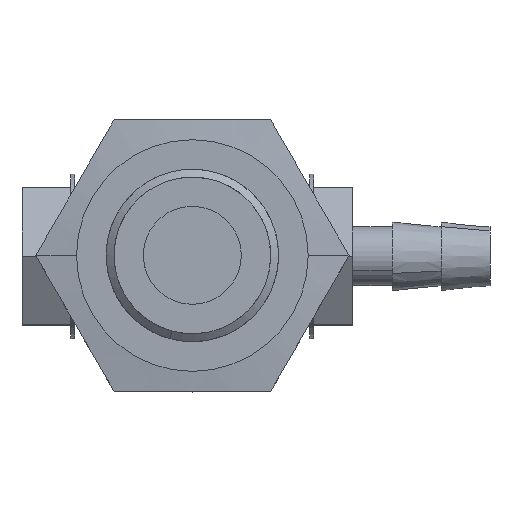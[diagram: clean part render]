
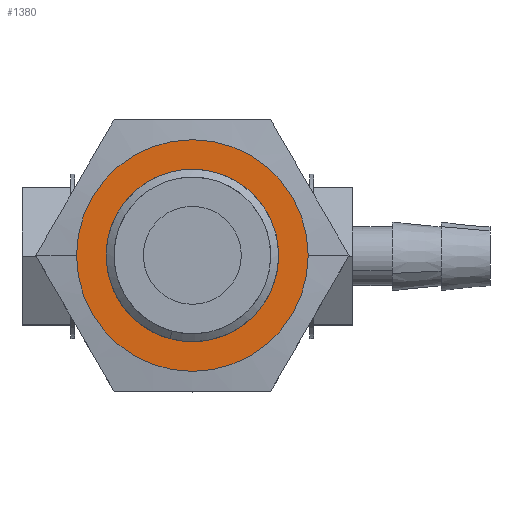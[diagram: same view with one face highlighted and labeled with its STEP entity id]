
A CAD part, top view. The second image highlights one B-rep face of the part: STEP entity #1380.
In plain terms, the highlighted planar face has unit normal (0, 0, 1).
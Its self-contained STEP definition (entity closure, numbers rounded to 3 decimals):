
#51 = FACE_BOUND ( 'NONE', #9597, .T. ) ;
#77 = FACE_OUTER_BOUND ( 'NONE', #2349, .T. ) ;
#141 = EDGE_CURVE ( 'NONE', #8605, #8946, #7550, .T. ) ;
#191 = CARTESIAN_POINT ( 'NONE',  ( 1.565, -2.297, 14.25 ) ) ;
#519 = CIRCLE ( 'NONE', #6175, 5.916 ) ;
#749 = EDGE_CURVE ( 'NONE', #8946, #8605, #3007, .T. ) ;
#1023 = ORIENTED_EDGE ( 'NONE', *, *, #749, .T. ) ;
#1078 = EDGE_CURVE ( 'NONE', #8200, #11813, #1762, .T. ) ;
#1139 = DIRECTION ( 'NONE',  ( 1., 0., 0. ) ) ;
#1380 = ADVANCED_FACE ( 'NONE', ( #51, #77 ), #5175, .T. ) ;
#1762 = CIRCLE ( 'NONE', #10272, 5.916 ) ;
#1899 = CARTESIAN_POINT ( 'NONE',  ( 5.815, -2.297, 14.25 ) ) ;
#2349 = EDGE_LOOP ( 'NONE', ( #3067, #3586 ) ) ;
#3007 = CIRCLE ( 'NONE', #10785, 4.25 ) ;
#3067 = ORIENTED_EDGE ( 'NONE', *, *, #1078, .T. ) ;
#3422 = ORIENTED_EDGE ( 'NONE', *, *, #141, .T. ) ;
#3586 = ORIENTED_EDGE ( 'NONE', *, *, #9835, .T. ) ;
#3781 = CARTESIAN_POINT ( 'NONE',  ( 7.481, -2.297, 14.25 ) ) ;
#4132 = DIRECTION ( 'NONE',  ( 0., 0., 1. ) ) ;
#5086 = DIRECTION ( 'NONE',  ( 1., 0., 0. ) ) ;
#5099 = DIRECTION ( 'NONE',  ( 0., 0., 1. ) ) ;
#5101 = CARTESIAN_POINT ( 'NONE',  ( -4.422, -8.283, 14.25 ) ) ;
#5175 = PLANE ( 'NONE',  #11723 ) ;
#5219 = CARTESIAN_POINT ( 'NONE',  ( 1.565, -2.297, 14.25 ) ) ;
#5221 = DIRECTION ( 'NONE',  ( 0., 0., -1. ) ) ;
#5236 = DIRECTION ( 'NONE',  ( 1., 0., 0. ) ) ;
#6175 = AXIS2_PLACEMENT_3D ( 'NONE', #10051, #4132, #11067 ) ;
#6583 = CARTESIAN_POINT ( 'NONE',  ( -2.685, -2.297, 14.25 ) ) ;
#6884 = DIRECTION ( 'NONE',  ( -1., 0., 0. ) ) ;
#6886 = DIRECTION ( 'NONE',  ( 0., 0., 1. ) ) ;
#6898 = CARTESIAN_POINT ( 'NONE',  ( 1.565, -2.297, 14.25 ) ) ;
#7550 = CIRCLE ( 'NONE', #12542, 4.25 ) ;
#7758 = DIRECTION ( 'NONE',  ( 0., 0., -1. ) ) ;
#8200 = VERTEX_POINT ( 'NONE', #10849 ) ;
#8605 = VERTEX_POINT ( 'NONE', #1899 ) ;
#8946 = VERTEX_POINT ( 'NONE', #6583 ) ;
#9597 = EDGE_LOOP ( 'NONE', ( #3422, #1023 ) ) ;
#9835 = EDGE_CURVE ( 'NONE', #11813, #8200, #519, .T. ) ;
#10051 = CARTESIAN_POINT ( 'NONE',  ( 1.565, -2.297, 14.25 ) ) ;
#10272 = AXIS2_PLACEMENT_3D ( 'NONE', #6898, #6886, #6884 ) ;
#10785 = AXIS2_PLACEMENT_3D ( 'NONE', #191, #7758, #1139 ) ;
#10849 = CARTESIAN_POINT ( 'NONE',  ( -4.351, -2.297, 14.25 ) ) ;
#11067 = DIRECTION ( 'NONE',  ( -1., 0., 0. ) ) ;
#11723 = AXIS2_PLACEMENT_3D ( 'NONE', #5101, #5099, #5086 ) ;
#11813 = VERTEX_POINT ( 'NONE', #3781 ) ;
#12542 = AXIS2_PLACEMENT_3D ( 'NONE', #5219, #5221, #5236 ) ;
